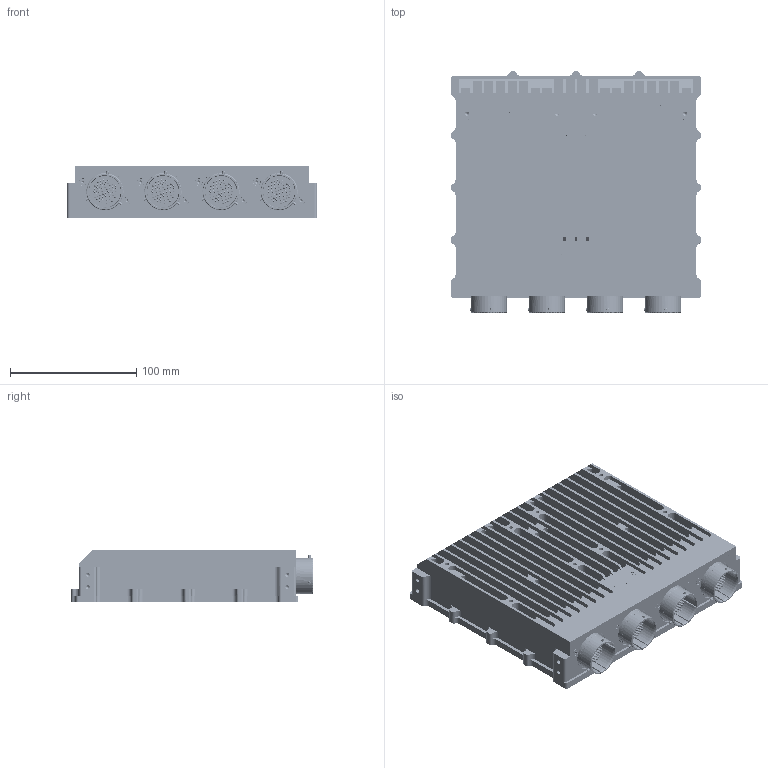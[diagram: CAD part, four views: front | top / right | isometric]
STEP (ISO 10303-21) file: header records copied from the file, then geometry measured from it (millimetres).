
FILE_DESCRIPTION(/* description */ (''),/* implementation_level */ '2;1');
FILE_NAME(/* name */ 'F02UV02514-03_MOD_01.stp',/* time_stamp */ '2021-09-01T13:38:05+02:00',/* author */ (''),/* organization */ (''),/* preprocessor_version */ 'ST-DEVELOPER v16.7',/* originating_system */ 'SIEMENS PLM Software NX 1946',/* authorisation */ '');
FILE_SCHEMA (('AUTOMOTIVE_DESIGN { 1 0 10303 214 3 1 1 1 }'));
Products named in the file (1): F02UV02514-03_MOD_001_stp
Bounding box: 198 x 191.25 x 42 mm (x, y, z)
Volume: 333034.7 mm3; surface area: 276741.5 mm2
Topology: 1 solids, 33 shells, 6082 faces, 19003 edges, 13827 vertices
Faces by surface type: cylinder 2562, plane 1934, cone 834, bspline 528, torus 120, extrusion 104
Entity records: 278677 total; most frequent: CARTESIAN_POINT 57958, DIRECTION 39781, ORIENTED_EDGE 37758, EDGE_CURVE 18879, AXIS2_PLACEMENT_3D 16823, VERTEX_POINT 13827, CIRCLE 11364, EDGE_LOOP 7114
